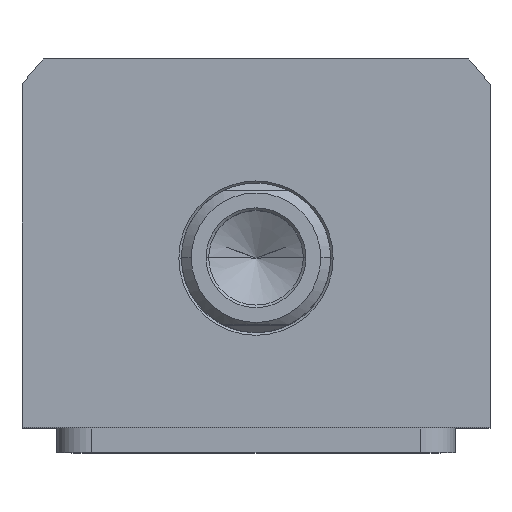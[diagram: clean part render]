
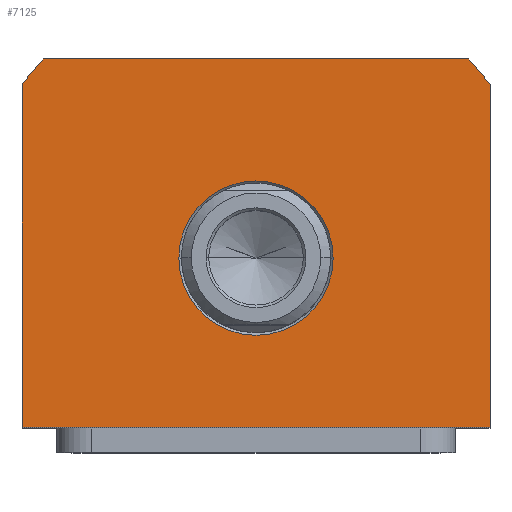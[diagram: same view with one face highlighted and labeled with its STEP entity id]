
A CAD part, top view. The second image highlights one B-rep face of the part: STEP entity #7125.
In plain terms, the highlighted planar face has unit normal (0, 0, 1).
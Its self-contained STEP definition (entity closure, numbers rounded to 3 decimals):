
#62 = DIRECTION ( 'NONE',  ( 1., 0., 0. ) ) ;
#91 = EDGE_CURVE ( 'NONE', #8934, #8453, #8012, .T. ) ;
#97 = ORIENTED_EDGE ( 'NONE', *, *, #91, .T. ) ;
#140 = FACE_BOUND ( 'NONE', #10150, .T. ) ;
#200 = CIRCLE ( 'NONE', #10969, 15.5 ) ;
#324 = CIRCLE ( 'NONE', #4508, 58.5 ) ;
#419 = EDGE_CURVE ( 'NONE', #2338, #8934, #877, .T. ) ;
#431 = DIRECTION ( 'NONE',  ( 0., -1., 0. ) ) ;
#779 = CARTESIAN_POINT ( 'NONE',  ( 0., 0., 55. ) ) ;
#877 = CIRCLE ( 'NONE', #4926, 58.5 ) ;
#1029 = EDGE_CURVE ( 'NONE', #5477, #11040, #4490, .T. ) ;
#1151 = DIRECTION ( 'NONE',  ( 0., 0., 1. ) ) ;
#1304 = DIRECTION ( 'NONE',  ( 0., 1., 0. ) ) ;
#1344 = DIRECTION ( 'NONE',  ( -1., 0., 0. ) ) ;
#1437 = CARTESIAN_POINT ( 'NONE',  ( 42.688, 40., 55. ) ) ;
#1580 = CARTESIAN_POINT ( 'NONE',  ( 0., 0., 55. ) ) ;
#1900 = CARTESIAN_POINT ( 'NONE',  ( -47., 34.832, 55. ) ) ;
#1978 = VERTEX_POINT ( 'NONE', #1437 ) ;
#2188 = EDGE_CURVE ( 'NONE', #5567, #2742, #200, .T. ) ;
#2338 = VERTEX_POINT ( 'NONE', #10863 ) ;
#2641 = DIRECTION ( 'NONE',  ( 0., 0., 1. ) ) ;
#2701 = AXIS2_PLACEMENT_3D ( 'NONE', #4584, #1151, #11162 ) ;
#2742 = VERTEX_POINT ( 'NONE', #11746 ) ;
#3213 = CARTESIAN_POINT ( 'NONE',  ( -42.688, 40., 55. ) ) ;
#3602 = FACE_OUTER_BOUND ( 'NONE', #3740, .T. ) ;
#3740 = EDGE_LOOP ( 'NONE', ( #7022, #6716, #9248, #8464, #5610, #97 ) ) ;
#4354 = ORIENTED_EDGE ( 'NONE', *, *, #10924, .T. ) ;
#4370 = DIRECTION ( 'NONE',  ( 1., 0., 0. ) ) ;
#4413 = DIRECTION ( 'NONE',  ( 0., 0., -1. ) ) ;
#4490 = LINE ( 'NONE', #9514, #9063 ) ;
#4497 = CARTESIAN_POINT ( 'NONE',  ( 0., 0., 55. ) ) ;
#4508 = AXIS2_PLACEMENT_3D ( 'NONE', #4497, #2641, #6365 ) ;
#4584 = CARTESIAN_POINT ( 'NONE',  ( 0., 0., 55. ) ) ;
#4631 = EDGE_CURVE ( 'NONE', #11040, #1978, #324, .T. ) ;
#4926 = AXIS2_PLACEMENT_3D ( 'NONE', #1580, #8118, #9953 ) ;
#5059 = LINE ( 'NONE', #9100, #10347 ) ;
#5211 = DIRECTION ( 'NONE',  ( 1., 0., 0. ) ) ;
#5477 = VERTEX_POINT ( 'NONE', #6416 ) ;
#5502 = EDGE_CURVE ( 'NONE', #8453, #5477, #5059, .T. ) ;
#5547 = CARTESIAN_POINT ( 'NONE',  ( -15.5, 0., 55. ) ) ;
#5567 = VERTEX_POINT ( 'NONE', #5547 ) ;
#5605 = CIRCLE ( 'NONE', #7323, 15.5 ) ;
#5610 = ORIENTED_EDGE ( 'NONE', *, *, #419, .T. ) ;
#5823 = CARTESIAN_POINT ( 'NONE',  ( -47., -34., 55. ) ) ;
#6365 = DIRECTION ( 'NONE',  ( 1., 0., 0. ) ) ;
#6416 = CARTESIAN_POINT ( 'NONE',  ( 47., -34., 55. ) ) ;
#6439 = ORIENTED_EDGE ( 'NONE', *, *, #2188, .T. ) ;
#6574 = VECTOR ( 'NONE', #431, 1000. ) ;
#6716 = ORIENTED_EDGE ( 'NONE', *, *, #1029, .T. ) ;
#7022 = ORIENTED_EDGE ( 'NONE', *, *, #5502, .T. ) ;
#7125 = ADVANCED_FACE ( 'NONE', ( #140, #3602 ), #10056, .T. ) ;
#7212 = DIRECTION ( 'NONE',  ( 0., 0., -1. ) ) ;
#7323 = AXIS2_PLACEMENT_3D ( 'NONE', #10670, #4413, #5211 ) ;
#7763 = EDGE_CURVE ( 'NONE', #1978, #2338, #11716, .T. ) ;
#7897 = CARTESIAN_POINT ( 'NONE',  ( -47., -34., 55. ) ) ;
#7987 = CARTESIAN_POINT ( 'NONE',  ( 47., 34.832, 55. ) ) ;
#8012 = LINE ( 'NONE', #7897, #6574 ) ;
#8118 = DIRECTION ( 'NONE',  ( 0., 0., 1. ) ) ;
#8453 = VERTEX_POINT ( 'NONE', #5823 ) ;
#8464 = ORIENTED_EDGE ( 'NONE', *, *, #7763, .T. ) ;
#8585 = VECTOR ( 'NONE', #1344, 1000. ) ;
#8934 = VERTEX_POINT ( 'NONE', #1900 ) ;
#9063 = VECTOR ( 'NONE', #1304, 1000. ) ;
#9100 = CARTESIAN_POINT ( 'NONE',  ( 47., -34., 55. ) ) ;
#9248 = ORIENTED_EDGE ( 'NONE', *, *, #4631, .T. ) ;
#9514 = CARTESIAN_POINT ( 'NONE',  ( 47., 34.832, 55. ) ) ;
#9953 = DIRECTION ( 'NONE',  ( 1., 0., 0. ) ) ;
#10056 = PLANE ( 'NONE',  #2701 ) ;
#10150 = EDGE_LOOP ( 'NONE', ( #4354, #6439 ) ) ;
#10347 = VECTOR ( 'NONE', #62, 1000. ) ;
#10670 = CARTESIAN_POINT ( 'NONE',  ( 0., 0., 55. ) ) ;
#10863 = CARTESIAN_POINT ( 'NONE',  ( -42.688, 40., 55. ) ) ;
#10924 = EDGE_CURVE ( 'NONE', #2742, #5567, #5605, .T. ) ;
#10969 = AXIS2_PLACEMENT_3D ( 'NONE', #779, #7212, #4370 ) ;
#11040 = VERTEX_POINT ( 'NONE', #7987 ) ;
#11162 = DIRECTION ( 'NONE',  ( 1., 0., 0. ) ) ;
#11716 = LINE ( 'NONE', #3213, #8585 ) ;
#11746 = CARTESIAN_POINT ( 'NONE',  ( 15.5, 0., 55. ) ) ;
